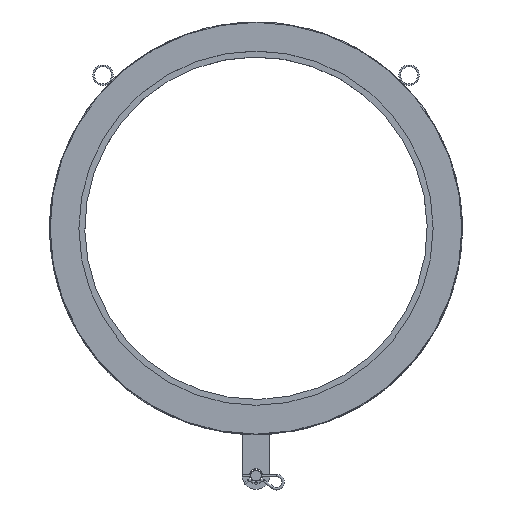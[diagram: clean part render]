
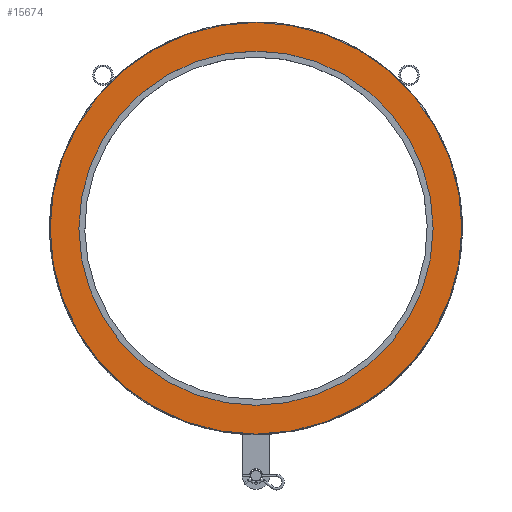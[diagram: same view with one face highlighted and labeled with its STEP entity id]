
A CAD part, top view. The second image highlights one B-rep face of the part: STEP entity #15674.
In plain terms, the highlighted planar face has unit normal (0, 0, 1).
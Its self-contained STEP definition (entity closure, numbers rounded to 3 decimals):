
#511=FACE_BOUND('',#3444,.T.);
#1667=PLANE('',#16550);
#2499=FACE_OUTER_BOUND('',#3443,.T.);
#3443=EDGE_LOOP('',(#14372));
#3444=EDGE_LOOP('',(#14373));
#6057=CIRCLE('',#16546,388.);
#6058=CIRCLE('',#16548,451.);
#7579=VERTEX_POINT('',#36752);
#7580=VERTEX_POINT('',#36756);
#9863=EDGE_CURVE('',#7579,#7579,#6057,.T.);
#9865=EDGE_CURVE('',#7580,#7580,#6058,.T.);
#14372=ORIENTED_EDGE('',*,*,#9865,.F.);
#14373=ORIENTED_EDGE('',*,*,#9863,.T.);
#15674=ADVANCED_FACE('',(#2499,#511),#1667,.T.);
#16546=AXIS2_PLACEMENT_3D('',#36753,#19283,#19284);
#16548=AXIS2_PLACEMENT_3D('',#36757,#19288,#19289);
#16550=AXIS2_PLACEMENT_3D('',#36760,#19293,#19294);
#19283=DIRECTION('center_axis',(0.,0.,
-1.));
#19284=DIRECTION('ref_axis',(-1.,0.,0.));
#19288=DIRECTION('center_axis',(0.,0.,
-1.));
#19289=DIRECTION('ref_axis',(-1.,0.,0.));
#19293=DIRECTION('center_axis',(0.,0.,
1.));
#19294=DIRECTION('ref_axis',(-1.,0.,0.));
#36752=CARTESIAN_POINT('',(388.,0.,140.));
#36753=CARTESIAN_POINT('Origin',(0.,0.,
140.));
#36756=CARTESIAN_POINT('',(451.,0.,140.));
#36757=CARTESIAN_POINT('Origin',(0.,0.,
140.));
#36760=CARTESIAN_POINT('Origin',(0.,0.,
140.));
